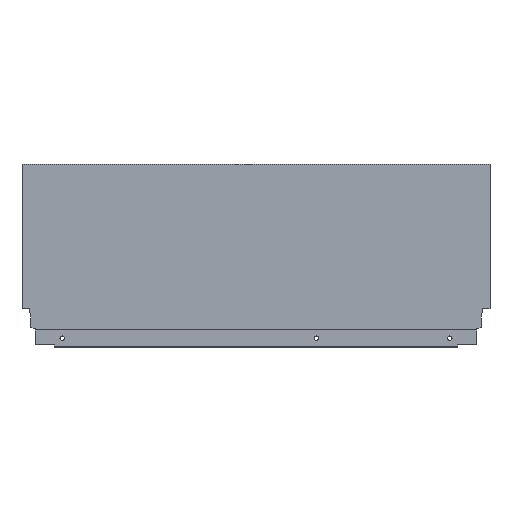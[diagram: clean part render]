
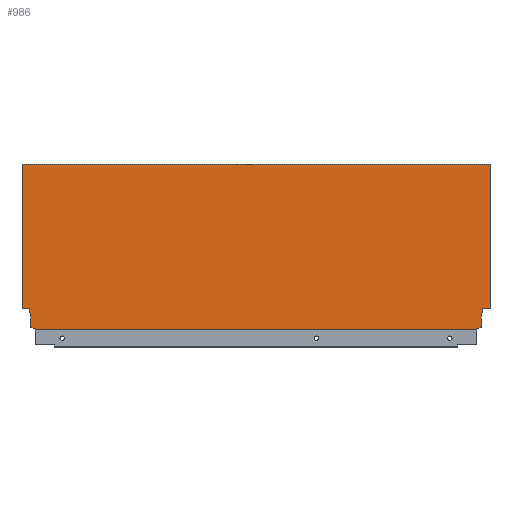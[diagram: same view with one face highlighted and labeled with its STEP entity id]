
A CAD part, top view. The second image highlights one B-rep face of the part: STEP entity #986.
In plain terms, the highlighted planar face has unit normal (0, 0, 1).
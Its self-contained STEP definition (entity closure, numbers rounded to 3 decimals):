
#132 = DIRECTION ( 'NONE',  ( 0., 0., 1. ) ) ;
#164 = PLANE ( 'NONE',  #1295 ) ;
#167 = CARTESIAN_POINT ( 'NONE',  ( -465., 0., 7.5 ) ) ;
#212 = DIRECTION ( 'NONE',  ( 1., 0., 0. ) ) ;
#356 = ORIENTED_EDGE ( 'NONE', *, *, #564, .F. ) ;
#390 = ORIENTED_EDGE ( 'NONE', *, *, #565, .F. ) ;
#391 = ORIENTED_EDGE ( 'NONE', *, *, #570, .F. ) ;
#392 = ORIENTED_EDGE ( 'NONE', *, *, #567, .F. ) ;
#394 = ORIENTED_EDGE ( 'NONE', *, *, #569, .T. ) ;
#397 = ORIENTED_EDGE ( 'NONE', *, *, #568, .F. ) ;
#433 = EDGE_LOOP ( 'NONE', ( #394, #397, #390, #391, #392, #356, #472, #473, #474, #475, #476, #477, #459, #460 ) ) ;
#459 = ORIENTED_EDGE ( 'NONE', *, *, #576, .F. ) ;
#460 = ORIENTED_EDGE ( 'NONE', *, *, #577, .F. ) ;
#472 = ORIENTED_EDGE ( 'NONE', *, *, #563, .T. ) ;
#473 = ORIENTED_EDGE ( 'NONE', *, *, #572, .F. ) ;
#474 = ORIENTED_EDGE ( 'NONE', *, *, #574, .F. ) ;
#475 = ORIENTED_EDGE ( 'NONE', *, *, #571, .F. ) ;
#476 = ORIENTED_EDGE ( 'NONE', *, *, #573, .F. ) ;
#477 = ORIENTED_EDGE ( 'NONE', *, *, #575, .F. ) ;
#508 = FACE_OUTER_BOUND ( 'NONE', #433, .T. ) ;
#563 = EDGE_CURVE ( 'NONE', #1530, #1511, #1218, .T. ) ;
#564 = EDGE_CURVE ( 'NONE', #1530, #1533, #1214, .T. ) ;
#565 = EDGE_CURVE ( 'NONE', #1537, #1535, #1210, .T. ) ;
#567 = EDGE_CURVE ( 'NONE', #1533, #1504, #1199, .T. ) ;
#568 = EDGE_CURVE ( 'NONE', #1535, #1501, #1221, .T. ) ;
#569 = EDGE_CURVE ( 'NONE', #1496, #1501, #1211, .T. ) ;
#570 = EDGE_CURVE ( 'NONE', #1504, #1537, #1201, .T. ) ;
#571 = EDGE_CURVE ( 'NONE', #1528, #1526, #1207, .T. ) ;
#572 = EDGE_CURVE ( 'NONE', #1517, #1511, #1204, .T. ) ;
#573 = EDGE_CURVE ( 'NONE', #1521, #1528, #1200, .T. ) ;
#574 = EDGE_CURVE ( 'NONE', #1526, #1517, #1202, .T. ) ;
#575 = EDGE_CURVE ( 'NONE', #1529, #1521, #1196, .T. ) ;
#576 = EDGE_CURVE ( 'NONE', #1512, #1529, #1194, .T. ) ;
#577 = EDGE_CURVE ( 'NONE', #1496, #1512, #1191, .T. ) ;
#827 = CARTESIAN_POINT ( 'NONE',  ( 0., 21.2, 7.5 ) ) ;
#828 = CARTESIAN_POINT ( 'NONE',  ( -8.9, 10.765, 7.5 ) ) ;
#829 = CARTESIAN_POINT ( 'NONE',  ( -8.9, 2.64, 7.5 ) ) ;
#838 = CARTESIAN_POINT ( 'NONE',  ( -457.94, 21.2, 7.5 ) ) ;
#839 = CARTESIAN_POINT ( 'NONE',  ( -465., 164.7, 7.5 ) ) ;
#845 = CARTESIAN_POINT ( 'NONE',  ( -456.1, 10.765, 7.5 ) ) ;
#856 = CARTESIAN_POINT ( 'NONE',  ( -465., 21.2, 7.5 ) ) ;
#857 = CARTESIAN_POINT ( 'NONE',  ( -456.1, 2.64, 7.5 ) ) ;
#860 = CARTESIAN_POINT ( 'NONE',  ( 0., 164.7, 7.5 ) ) ;
#863 = CARTESIAN_POINT ( 'NONE',  ( -13.004, 1.146, 7.5 ) ) ;
#867 = CARTESIAN_POINT ( 'NONE',  ( -7.06, 21.2, 7.5 ) ) ;
#870 = CARTESIAN_POINT ( 'NONE',  ( -451.996, 0., 7.5 ) ) ;
#889 = CARTESIAN_POINT ( 'NONE',  ( -451.996, 1.146, 7.5 ) ) ;
#906 = CARTESIAN_POINT ( 'NONE',  ( -13.004, 0., 7.5 ) ) ;
#986 = ADVANCED_FACE ( 'NONE', ( #508 ), #164, .T. ) ;
#1186 = VECTOR ( 'NONE', #1353, 1000. ) ;
#1188 = VECTOR ( 'NONE', #1355, 1000. ) ;
#1190 = VECTOR ( 'NONE', #1357, 1000. ) ;
#1191 = LINE ( 'NONE', #1356, #1186 ) ;
#1192 = VECTOR ( 'NONE', #1359, 1000. ) ;
#1193 = VECTOR ( 'NONE', #1361, 1000. ) ;
#1194 = LINE ( 'NONE', #1358, #1188 ) ;
#1195 = VECTOR ( 'NONE', #1363, 1000. ) ;
#1196 = LINE ( 'NONE', #1360, #1190 ) ;
#1197 = VECTOR ( 'NONE', #1365, 1000. ) ;
#1198 = VECTOR ( 'NONE', #1367, 1000. ) ;
#1199 = LINE ( 'NONE', #1374, #1206 ) ;
#1200 = LINE ( 'NONE', #1362, #1193 ) ;
#1201 = LINE ( 'NONE', #1368, #1198 ) ;
#1202 = LINE ( 'NONE', #1364, #1192 ) ;
#1203 = VECTOR ( 'NONE', #1369, 1000. ) ;
#1204 = LINE ( 'NONE', #1366, #1195 ) ;
#1205 = VECTOR ( 'NONE', #1371, 1000. ) ;
#1206 = VECTOR ( 'NONE', #1373, 1000. ) ;
#1207 = LINE ( 'NONE', #1370, #1197 ) ;
#1209 = VECTOR ( 'NONE', #1377, 1000. ) ;
#1210 = LINE ( 'NONE', #1378, #1209 ) ;
#1211 = LINE ( 'NONE', #1372, #1203 ) ;
#1212 = VECTOR ( 'NONE', #1379, 1000. ) ;
#1214 = LINE ( 'NONE', #1387, #1212 ) ;
#1216 = VECTOR ( 'NONE', #1381, 1000. ) ;
#1218 = LINE ( 'NONE', #1382, #1216 ) ;
#1221 = LINE ( 'NONE', #1376, #1205 ) ;
#1295 = AXIS2_PLACEMENT_3D ( 'NONE', #167, #132, #212 ) ;
#1353 = DIRECTION ( 'NONE',  ( 1., 0., 0. ) ) ;
#1355 = DIRECTION ( 'NONE',  ( 0., -1., 0. ) ) ;
#1356 = CARTESIAN_POINT ( 'NONE',  ( -465., 164.7, 7.5 ) ) ;
#1357 = DIRECTION ( 'NONE',  ( -1., 0., 0. ) ) ;
#1358 = CARTESIAN_POINT ( 'NONE',  ( 0., 0., 7.5 ) ) ;
#1359 = DIRECTION ( 'NONE',  ( -0.94, -0.342, 0. ) ) ;
#1360 = CARTESIAN_POINT ( 'NONE',  ( 0., 21.2, 7.5 ) ) ;
#1361 = DIRECTION ( 'NONE',  ( -0.174, -0.985, 0. ) ) ;
#1362 = CARTESIAN_POINT ( 'NONE',  ( -7.06, 21.2, 7.5 ) ) ;
#1363 = DIRECTION ( 'NONE',  ( 0., -1., 0. ) ) ;
#1364 = CARTESIAN_POINT ( 'NONE',  ( -8.9, 2.64, 7.5 ) ) ;
#1365 = DIRECTION ( 'NONE',  ( 0., -1., 0. ) ) ;
#1366 = CARTESIAN_POINT ( 'NONE',  ( -13.004, 1.146, 7.5 ) ) ;
#1367 = DIRECTION ( 'NONE',  ( 0., 1., 0. ) ) ;
#1368 = CARTESIAN_POINT ( 'NONE',  ( -456.1, 10.765, 7.5 ) ) ;
#1369 = DIRECTION ( 'NONE',  ( 0., -1., 0. ) ) ;
#1370 = CARTESIAN_POINT ( 'NONE',  ( -8.9, 10.765, 7.5 ) ) ;
#1371 = DIRECTION ( 'NONE',  ( -1., 0., 0. ) ) ;
#1372 = CARTESIAN_POINT ( 'NONE',  ( -465., 0., 7.5 ) ) ;
#1373 = DIRECTION ( 'NONE',  ( -0.94, 0.342, 0. ) ) ;
#1374 = CARTESIAN_POINT ( 'NONE',  ( -456.1, 2.64, 7.5 ) ) ;
#1376 = CARTESIAN_POINT ( 'NONE',  ( -470., 21.2, 7.5 ) ) ;
#1377 = DIRECTION ( 'NONE',  ( -0.174, 0.985, 0. ) ) ;
#1378 = CARTESIAN_POINT ( 'NONE',  ( -457.94, 21.2, 7.5 ) ) ;
#1379 = DIRECTION ( 'NONE',  ( 0., 1., 0. ) ) ;
#1381 = DIRECTION ( 'NONE',  ( 1., 0., 0. ) ) ;
#1382 = CARTESIAN_POINT ( 'NONE',  ( -465., 0., 7.5 ) ) ;
#1387 = CARTESIAN_POINT ( 'NONE',  ( -451.996, 1.146, 7.5 ) ) ;
#1496 = VERTEX_POINT ( 'NONE', #839 ) ;
#1501 = VERTEX_POINT ( 'NONE', #856 ) ;
#1504 = VERTEX_POINT ( 'NONE', #857 ) ;
#1511 = VERTEX_POINT ( 'NONE', #906 ) ;
#1512 = VERTEX_POINT ( 'NONE', #860 ) ;
#1517 = VERTEX_POINT ( 'NONE', #863 ) ;
#1521 = VERTEX_POINT ( 'NONE', #867 ) ;
#1526 = VERTEX_POINT ( 'NONE', #829 ) ;
#1528 = VERTEX_POINT ( 'NONE', #828 ) ;
#1529 = VERTEX_POINT ( 'NONE', #827 ) ;
#1530 = VERTEX_POINT ( 'NONE', #870 ) ;
#1533 = VERTEX_POINT ( 'NONE', #889 ) ;
#1535 = VERTEX_POINT ( 'NONE', #838 ) ;
#1537 = VERTEX_POINT ( 'NONE', #845 ) ;
